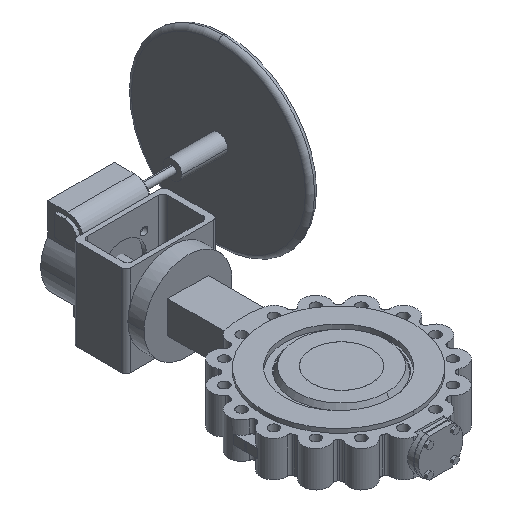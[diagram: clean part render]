
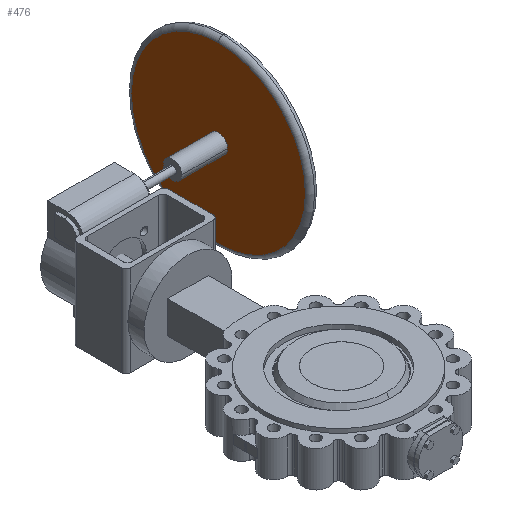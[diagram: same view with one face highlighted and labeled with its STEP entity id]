
A CAD part, isometric view. The second image highlights one B-rep face of the part: STEP entity #476.
In plain terms, the highlighted planar face has unit normal (-1, 0, 0).
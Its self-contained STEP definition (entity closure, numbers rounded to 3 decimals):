
#476 = ADVANCED_FACE( '', ( #1271, #1272 ), #1273, .T. );
#1271 = FACE_OUTER_BOUND( '', #2080, .T. );
#1272 = FACE_BOUND( '', #2081, .T. );
#1273 = PLANE( '', #2082 );
#2080 = EDGE_LOOP( '', ( #5043, #5044, #5045 ) );
#2081 = EDGE_LOOP( '', ( #5046, #5047 ) );
#2082 = AXIS2_PLACEMENT_3D( '', #5048, #5049, #5050 );
#5043 = ORIENTED_EDGE( '', *, *, #5988, .F. );
#5044 = ORIENTED_EDGE( '', *, *, #5987, .F. );
#5045 = ORIENTED_EDGE( '', *, *, #5984, .F. );
#5046 = ORIENTED_EDGE( '', *, *, #6010, .T. );
#5047 = ORIENTED_EDGE( '', *, *, #6102, .T. );
#5048 = CARTESIAN_POINT( '', ( 321., 780.25, 104.5 ) );
#5049 = DIRECTION( '', ( -1., 0., 0. ) );
#5050 = DIRECTION( '', ( 0., -1., 0. ) );
#5984 = EDGE_CURVE( '', #7514, #7516, #7517, .T. );
#5987 = EDGE_CURVE( '', #7516, #7520, #7521, .T. );
#5988 = EDGE_CURVE( '', #7520, #7514, #7522, .T. );
#6010 = EDGE_CURVE( '', #7559, #7563, #7565, .T. );
#6102 = EDGE_CURVE( '', #7563, #7559, #7717, .T. );
#7514 = VERTEX_POINT( '', #10456 );
#7516 = VERTEX_POINT( '', #10458 );
#7517 = CIRCLE( '', #10459, 237.5 );
#7520 = VERTEX_POINT( '', #10462 );
#7521 = CIRCLE( '', #10463, 237.5 );
#7522 = CIRCLE( '', #10464, 237.5 );
#7559 = VERTEX_POINT( '', #10532 );
#7563 = VERTEX_POINT( '', #10537 );
#7565 = CIRCLE( '', #10540, 25. );
#7717 = CIRCLE( '', #10765, 25. );
#10456 = CARTESIAN_POINT( '', ( 321., 649., 342. ) );
#10458 = CARTESIAN_POINT( '', ( 321., 649., -133. ) );
#10459 = AXIS2_PLACEMENT_3D( '', #12420, #12421, #12422 );
#10462 = CARTESIAN_POINT( '', ( 321., 886.5, 104.5 ) );
#10463 = AXIS2_PLACEMENT_3D( '', #12429, #12430, #12431 );
#10464 = AXIS2_PLACEMENT_3D( '', #12432, #12433, #12434 );
#10532 = CARTESIAN_POINT( '', ( 321., 674., 104.5 ) );
#10537 = CARTESIAN_POINT( '', ( 321., 624., 104.5 ) );
#10540 = AXIS2_PLACEMENT_3D( '', #12479, #12480, #12481 );
#10765 = AXIS2_PLACEMENT_3D( '', #12609, #12610, #12611 );
#12420 = CARTESIAN_POINT( '', ( 321., 649., 104.5 ) );
#12421 = DIRECTION( '', ( 1., 0., 0. ) );
#12422 = DIRECTION( '', ( 0., 1., 0. ) );
#12429 = CARTESIAN_POINT( '', ( 321., 649., 104.5 ) );
#12430 = DIRECTION( '', ( 1., 0., 0. ) );
#12431 = DIRECTION( '', ( 0., 1., 0. ) );
#12432 = CARTESIAN_POINT( '', ( 321., 649., 104.5 ) );
#12433 = DIRECTION( '', ( 1., 0., 0. ) );
#12434 = DIRECTION( '', ( 0., 1., 0. ) );
#12479 = CARTESIAN_POINT( '', ( 321., 649., 104.5 ) );
#12480 = DIRECTION( '', ( 1., 0., 0. ) );
#12481 = DIRECTION( '', ( 0., 1., 0. ) );
#12609 = CARTESIAN_POINT( '', ( 321., 649., 104.5 ) );
#12610 = DIRECTION( '', ( 1., 0., 0. ) );
#12611 = DIRECTION( '', ( 0., 1., 0. ) );
